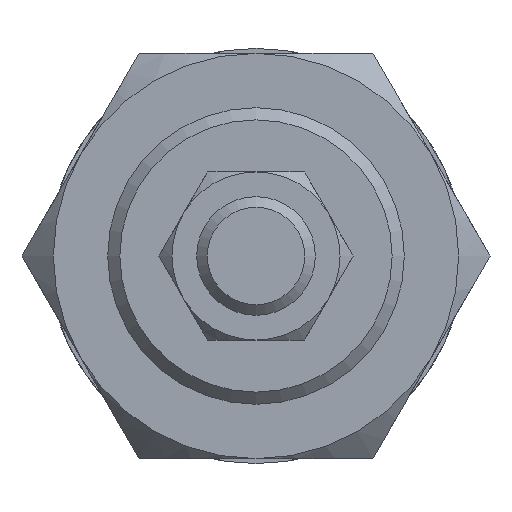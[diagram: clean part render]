
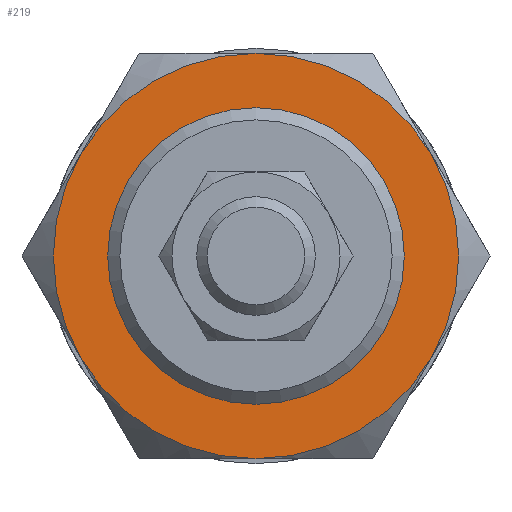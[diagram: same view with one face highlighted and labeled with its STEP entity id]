
A CAD part, left-side view. The second image highlights one B-rep face of the part: STEP entity #219.
In plain terms, the highlighted planar face has unit normal (-1, 0, 0).
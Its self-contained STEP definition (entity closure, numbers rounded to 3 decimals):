
#219 = ADVANCED_FACE( '', ( #494, #495 ), #496, .F. );
#494 = FACE_OUTER_BOUND( '', #847, .T. );
#495 = FACE_BOUND( '', #848, .T. );
#496 = PLANE( '', #849 );
#847 = EDGE_LOOP( '', ( #1281, #1282, #1283, #1284, #1285, #1286 ) );
#848 = EDGE_LOOP( '', ( #1287 ) );
#849 = AXIS2_PLACEMENT_3D( '', #1288, #1289, #1290 );
#1281 = ORIENTED_EDGE( '', *, *, #1919, .F. );
#1282 = ORIENTED_EDGE( '', *, *, #1920, .F. );
#1283 = ORIENTED_EDGE( '', *, *, #1921, .F. );
#1284 = ORIENTED_EDGE( '', *, *, #1876, .F. );
#1285 = ORIENTED_EDGE( '', *, *, #1871, .F. );
#1286 = ORIENTED_EDGE( '', *, *, #1922, .F. );
#1287 = ORIENTED_EDGE( '', *, *, #1923, .T. );
#1288 = CARTESIAN_POINT( '', ( -11., 0., 0. ) );
#1289 = DIRECTION( '', ( 1., 0., 0. ) );
#1290 = DIRECTION( '', ( 0., 0., -1. ) );
#1871 = EDGE_CURVE( '', #2175, #2178, #2179, .T. );
#1876 = EDGE_CURVE( '', #2178, #2183, #2186, .T. );
#1919 = EDGE_CURVE( '', #2134, #2255, #2256, .T. );
#1920 = EDGE_CURVE( '', #2257, #2134, #2258, .T. );
#1921 = EDGE_CURVE( '', #2183, #2257, #2259, .T. );
#1922 = EDGE_CURVE( '', #2255, #2175, #2260, .T. );
#1923 = EDGE_CURVE( '', #2261, #2261, #2262, .T. );
#2134 = VERTEX_POINT( '', #2576 );
#2175 = VERTEX_POINT( '', #2660 );
#2178 = VERTEX_POINT( '', #2676 );
#2179 = CIRCLE( '', #2677, 20.5 );
#2183 = VERTEX_POINT( '', #2690 );
#2186 = CIRCLE( '', #2707, 20.5 );
#2255 = VERTEX_POINT( '', #2830 );
#2256 = CIRCLE( '', #2831, 20.5 );
#2257 = VERTEX_POINT( '', #2832 );
#2258 = CIRCLE( '', #2833, 20.5 );
#2259 = CIRCLE( '', #2834, 20.5 );
#2260 = CIRCLE( '', #2835, 20.5 );
#2261 = VERTEX_POINT( '', #2836 );
#2262 = CIRCLE( '', #2837, 15. );
#2576 = CARTESIAN_POINT( '', ( -11., 17.754, -10.25 ) );
#2660 = CARTESIAN_POINT( '', ( -11., 0., 20.5 ) );
#2676 = CARTESIAN_POINT( '', ( -11., -17.754, 10.25 ) );
#2677 = AXIS2_PLACEMENT_3D( '', #3443, #3444, #3445 );
#2690 = CARTESIAN_POINT( '', ( -11., -17.754, -10.25 ) );
#2707 = AXIS2_PLACEMENT_3D( '', #3446, #3447, #3448 );
#2830 = CARTESIAN_POINT( '', ( -11., 17.754, 10.25 ) );
#2831 = AXIS2_PLACEMENT_3D( '', #3511, #3512, #3513 );
#2832 = CARTESIAN_POINT( '', ( -11., 0., -20.5 ) );
#2833 = AXIS2_PLACEMENT_3D( '', #3514, #3515, #3516 );
#2834 = AXIS2_PLACEMENT_3D( '', #3517, #3518, #3519 );
#2835 = AXIS2_PLACEMENT_3D( '', #3520, #3521, #3522 );
#2836 = CARTESIAN_POINT( '', ( -11., 0., -15. ) );
#2837 = AXIS2_PLACEMENT_3D( '', #3523, #3524, #3525 );
#3443 = CARTESIAN_POINT( '', ( -11., 0., 0. ) );
#3444 = DIRECTION( '', ( 1., 0., 0. ) );
#3445 = DIRECTION( '', ( 0., 0., -1. ) );
#3446 = CARTESIAN_POINT( '', ( -11., 0., 0. ) );
#3447 = DIRECTION( '', ( 1., 0., 0. ) );
#3448 = DIRECTION( '', ( 0., 0., -1. ) );
#3511 = CARTESIAN_POINT( '', ( -11., 0., 0. ) );
#3512 = DIRECTION( '', ( 1., 0., 0. ) );
#3513 = DIRECTION( '', ( 0., 0., -1. ) );
#3514 = CARTESIAN_POINT( '', ( -11., 0., 0. ) );
#3515 = DIRECTION( '', ( 1., 0., 0. ) );
#3516 = DIRECTION( '', ( 0., 0., -1. ) );
#3517 = CARTESIAN_POINT( '', ( -11., 0., 0. ) );
#3518 = DIRECTION( '', ( 1., 0., 0. ) );
#3519 = DIRECTION( '', ( 0., 0., -1. ) );
#3520 = CARTESIAN_POINT( '', ( -11., 0., 0. ) );
#3521 = DIRECTION( '', ( 1., 0., 0. ) );
#3522 = DIRECTION( '', ( 0., 0., -1. ) );
#3523 = CARTESIAN_POINT( '', ( -11., 0., 0. ) );
#3524 = DIRECTION( '', ( 1., 0., 0. ) );
#3525 = DIRECTION( '', ( 0., 0., -1. ) );
